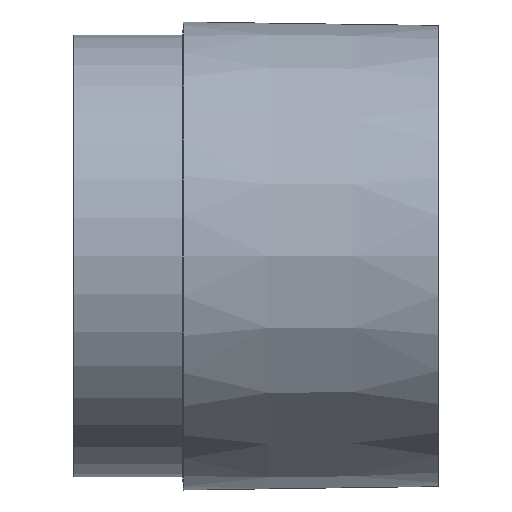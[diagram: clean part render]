
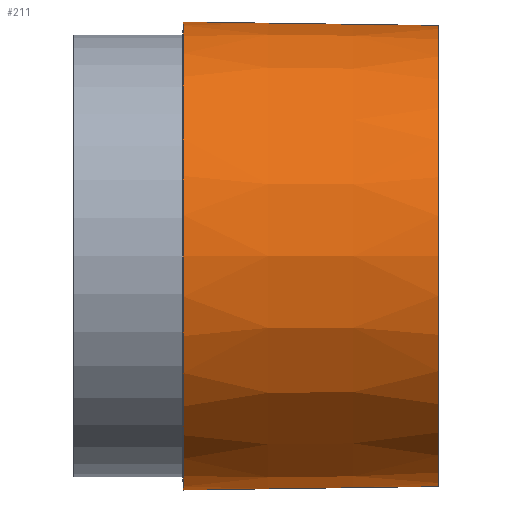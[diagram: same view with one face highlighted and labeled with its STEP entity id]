
A CAD part, left-side view. The second image highlights one B-rep face of the part: STEP entity #211.
In plain terms, the highlighted conical face has half-angle 0.802 degrees and reference radius 80.835 mm.
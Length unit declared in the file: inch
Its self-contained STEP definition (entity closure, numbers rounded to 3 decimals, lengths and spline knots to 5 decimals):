
#36=FACE_OUTER_BOUND('',#53,.T.);
#53=EDGE_LOOP('',(#185,#186,#187,#188));
#64=LINE('',#386,#75);
#75=VECTOR('',#328,3.18249);
#85=CIRCLE('',#242,3.158);
#91=CIRCLE('',#254,3.20698);
#101=VERTEX_POINT('',#359);
#107=VERTEX_POINT('',#382);
#121=EDGE_CURVE('',#101,#101,#85,.T.);
#132=EDGE_CURVE('',#107,#107,#91,.T.);
#134=EDGE_CURVE('',#101,#107,#64,.T.);
#185=ORIENTED_EDGE('',*,*,#121,.F.);
#186=ORIENTED_EDGE('',*,*,#134,.T.);
#187=ORIENTED_EDGE('',*,*,#132,.T.);
#188=ORIENTED_EDGE('',*,*,#134,.F.);
#197=CONICAL_SURFACE('',#255,3.18249,0.014);
#211=ADVANCED_FACE('',(#36),#197,.T.);
#242=AXIS2_PLACEMENT_3D('',#360,#294,#295);
#254=AXIS2_PLACEMENT_3D('',#383,#323,#324);
#255=AXIS2_PLACEMENT_3D('',#385,#326,#327);
#294=DIRECTION('center_axis',(0.,-1.,0.));
#295=DIRECTION('ref_axis',(1.,0.,0.));
#323=DIRECTION('center_axis',(0.,-1.,0.));
#324=DIRECTION('ref_axis',(1.,0.,0.));
#326=DIRECTION('center_axis',(0.,1.,0.));
#327=DIRECTION('ref_axis',(0.,0.,-1.));
#328=DIRECTION('',(0.,1.,0.014));
#359=CARTESIAN_POINT('',(0.,-1.2507,3.158));
#360=CARTESIAN_POINT('Origin',(0.,-1.2507,0.));
#382=CARTESIAN_POINT('',(0.,2.2474,3.20698));
#383=CARTESIAN_POINT('Origin',(0.,2.2474,0.));
#385=CARTESIAN_POINT('Origin',(0.,0.49835,0.));
#386=CARTESIAN_POINT('',(0.,0.49835,3.18249));
